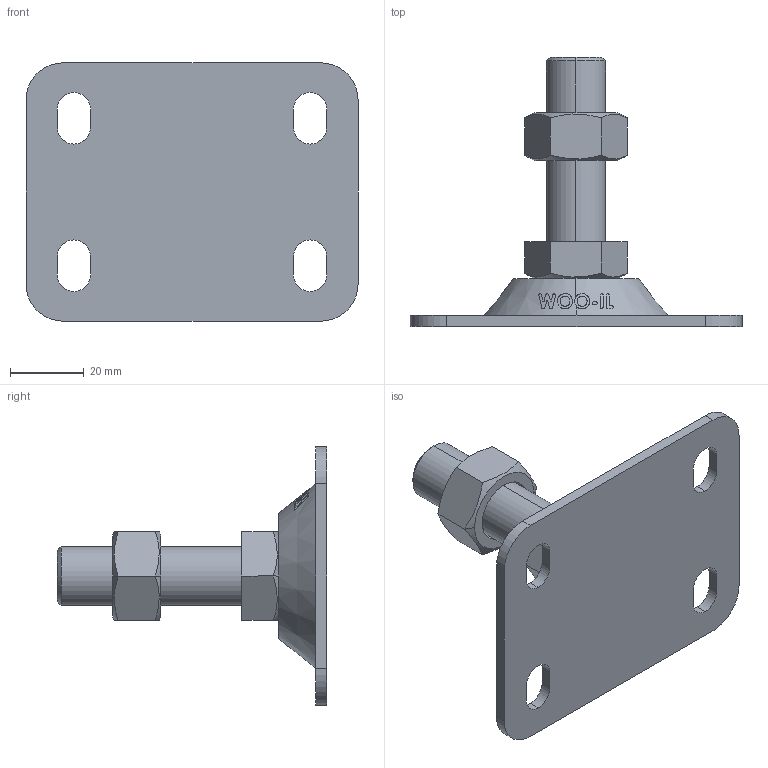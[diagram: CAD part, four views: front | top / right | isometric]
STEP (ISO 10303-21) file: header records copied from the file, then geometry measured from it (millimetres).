
FILE_DESCRIPTION (( 'STEP AP214' ), '1' );
FILE_NAME ('FABL7090-M16-50.step', '2021-03-28T23:52:12', ( '' ), ( '' ), 'SwSTEP 2.0', 'SolidWorks 2019', '' );
FILE_SCHEMA (( 'AUTOMOTIVE_DESIGN' ));
Length unit declared in the file: millimetre
Products named in the file (2): FABL7090-M16-50
Bounding box: 90 x 73 x 70 mm (x, y, z)
Volume: 50080.6 mm3; surface area: 19313.4 mm2
Topology: 2 solids, 2 shells, 146 faces, 384 edges, 252 vertices
Faces by surface type: plane 58, cylinder 48, cone 22, bspline 18
Entity records: 6084 total; most frequent: CARTESIAN_POINT 2656, ORIENTED_EDGE 768, DIRECTION 582, EDGE_CURVE 384, VERTEX_POINT 252, AXIS2_PLACEMENT_3D 210, EDGE_LOOP 166, LINE 162
